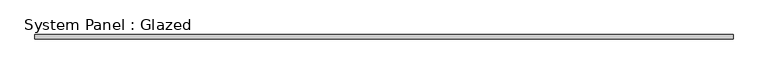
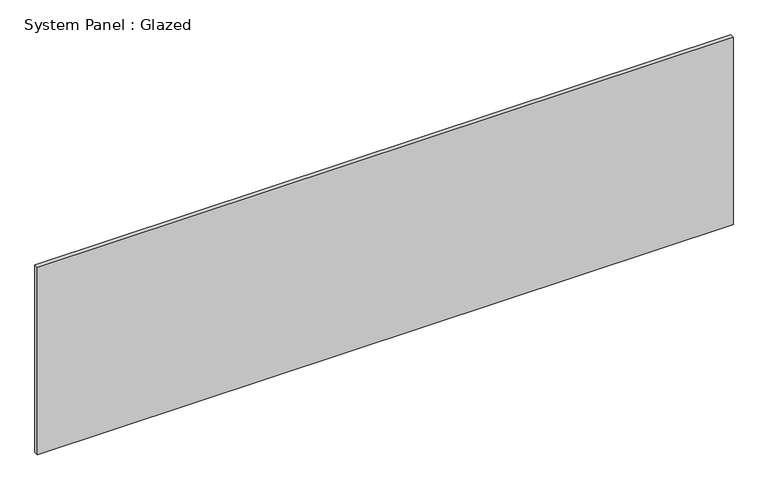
"""IFC4 building model written with IfcOpenShell, lengths in millimetres: plate geometry, System Panel : Glazed."""

from ifc_helpers import new_model, si_unit, origin, origin_with_axes, place, context, project, spatial, polyline, outline, extrude, source, transform, mapped, element, save


def system_panel_glazed_0d1816dc(model_context):
    return source(origin(), model_context, "Body", "SweptSolid", [
        extrude(outline(polyline([(1975.0, 24.5), (-1975.0, 24.5), (-1975.0, 49.5), (1975.0, 49.5), (1975.0, 24.5)])), origin_with_axes(), (0.0, 0.0, 1.0), 1125.0),
    ])


if __name__ == "__main__":
    model = new_model("IFC4")
    model_context = context("Model", 3, world=origin())
    ifc_project = project(units=[si_unit("LENGTHUNIT", "METRE", prefix="MILLI")], contexts=[model_context])
    site = spatial("IfcSite", under=ifc_project)
    building = spatial("IfcBuilding", under=site)
    placement = place(None, origin())
    system_panel_glazed_shape = system_panel_glazed_0d1816dc(model_context)
    element("IfcPlate", 1, ObjectType="System Panel : Glazed", at=placement, inside=building, context=model_context, shape_type="MappedRepresentation", body=[
        mapped(system_panel_glazed_shape, transform((0.0, 0.0, 0.0), x_axis=(1.0, 0.0, 0.0), y_axis=(0.0, 1.0, 0.0), z_axis=(0.0, 0.0, 1.0))),
    ])
    save(model, "model.ifc")
